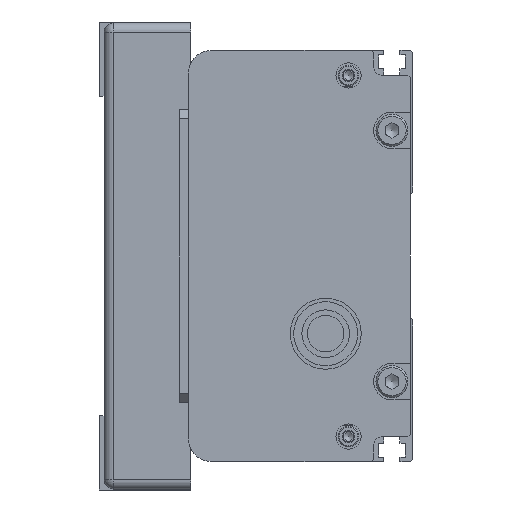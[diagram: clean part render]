
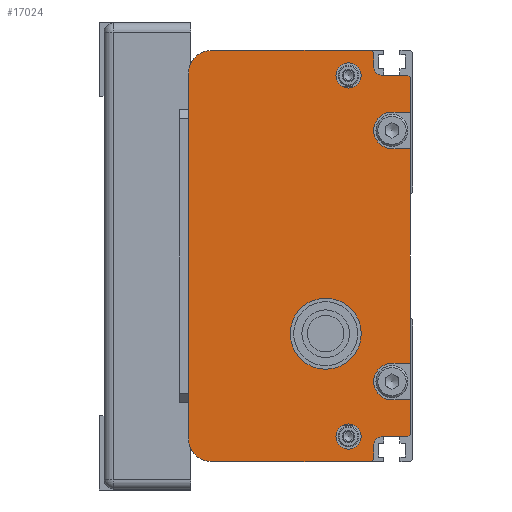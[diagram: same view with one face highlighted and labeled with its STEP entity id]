
A CAD part, left-side view. The second image highlights one B-rep face of the part: STEP entity #17024.
In plain terms, the highlighted planar face has unit normal (-1, 0, 0) as drawn and (0, 0, -1) by its records, which use the part's own axes.
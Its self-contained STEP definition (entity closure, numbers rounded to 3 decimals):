
#1084=FACE_BOUND('',#2504,.T.);
#1085=FACE_BOUND('',#2505,.T.);
#1086=FACE_BOUND('',#2506,.T.);
#1426=FACE_OUTER_BOUND('',#2503,.T.);
#2503=EDGE_LOOP('',(#11835,#11836,#11837,#11838,#11839,#11840,#11841,#11842,
#11843,#11844,#11845,#11846,#11847,#11848,#11849,#11850,#11851,#11852,#11853,
#11854,#11855,#11856,#11857,#11858));
#2504=EDGE_LOOP('',(#11859));
#2505=EDGE_LOOP('',(#11860));
#2506=EDGE_LOOP('',(#11861));
#3801=LINE('',#24681,#5299);
#3827=LINE('',#24748,#5325);
#3829=LINE('',#24753,#5327);
#3830=LINE('',#24755,#5328);
#3831=LINE('',#24758,#5329);
#3832=LINE('',#24760,#5330);
#3833=LINE('',#24762,#5331);
#3834=LINE('',#24766,#5332);
#3835=LINE('',#24768,#5333);
#3836=LINE('',#24770,#5334);
#3837=LINE('',#24774,#5335);
#3838=LINE('',#24776,#5336);
#3839=LINE('',#24778,#5337);
#3840=LINE('',#24780,#5338);
#3841=LINE('',#24784,#5339);
#3842=LINE('',#24786,#5340);
#3843=LINE('',#24787,#5341);
#3844=LINE('',#24788,#5342);
#5299=VECTOR('',#20054,80.);
#5325=VECTOR('',#20106,0.707);
#5327=VECTOR('',#20110,0.707);
#5328=VECTOR('',#20111,3.);
#5329=VECTOR('',#20114,5.5);
#5330=VECTOR('',#20115,7.5);
#5331=VECTOR('',#20116,4.);
#5332=VECTOR('',#20119,4.);
#5333=VECTOR('',#20120,47.);
#5334=VECTOR('',#20121,4.);
#5335=VECTOR('',#20124,4.);
#5336=VECTOR('',#20125,7.5);
#5337=VECTOR('',#20126,0.707);
#5338=VECTOR('',#20127,5.5);
#5339=VECTOR('',#20130,3.);
#5340=VECTOR('',#20131,0.707);
#5341=VECTOR('',#20132,35.);
#5342=VECTOR('',#20133,35.);
#6692=CIRCLE('',#18188,5.);
#6695=CIRCLE('',#18195,5.);
#6697=CIRCLE('',#18201,2.);
#6698=CIRCLE('',#18202,4.);
#6699=CIRCLE('',#18203,4.);
#6700=CIRCLE('',#18204,2.);
#6701=CIRCLE('',#18205,7.769);
#6702=CIRCLE('',#18206,2.75);
#6703=CIRCLE('',#18207,2.75);
#7303=VERTEX_POINT('',#24678);
#7304=VERTEX_POINT('',#24680);
#7305=VERTEX_POINT('',#24684);
#7308=VERTEX_POINT('',#24695);
#7331=VERTEX_POINT('',#24745);
#7332=VERTEX_POINT('',#24747);
#7333=VERTEX_POINT('',#24751);
#7334=VERTEX_POINT('',#24752);
#7335=VERTEX_POINT('',#24754);
#7336=VERTEX_POINT('',#24756);
#7337=VERTEX_POINT('',#24759);
#7338=VERTEX_POINT('',#24761);
#7339=VERTEX_POINT('',#24763);
#7340=VERTEX_POINT('',#24765);
#7341=VERTEX_POINT('',#24767);
#7342=VERTEX_POINT('',#24769);
#7343=VERTEX_POINT('',#24771);
#7344=VERTEX_POINT('',#24773);
#7345=VERTEX_POINT('',#24775);
#7346=VERTEX_POINT('',#24777);
#7347=VERTEX_POINT('',#24779);
#7348=VERTEX_POINT('',#24781);
#7349=VERTEX_POINT('',#24783);
#7350=VERTEX_POINT('',#24785);
#7351=VERTEX_POINT('',#24789);
#7352=VERTEX_POINT('',#24791);
#7353=VERTEX_POINT('',#24793);
#9093=EDGE_CURVE('',#7303,#7304,#3801,.T.);
#9095=EDGE_CURVE('',#7304,#7305,#6692,.T.);
#9100=EDGE_CURVE('',#7308,#7303,#6695,.T.);
#9124=EDGE_CURVE('',#7331,#7332,#3827,.T.);
#9126=EDGE_CURVE('',#7333,#7334,#3829,.T.);
#9127=EDGE_CURVE('',#7333,#7335,#3830,.T.);
#9128=EDGE_CURVE('',#7335,#7336,#6697,.T.);
#9129=EDGE_CURVE('',#7336,#7332,#3831,.T.);
#9130=EDGE_CURVE('',#7337,#7331,#3832,.T.);
#9131=EDGE_CURVE('',#7337,#7338,#3833,.T.);
#9132=EDGE_CURVE('',#7338,#7339,#6698,.T.);
#9133=EDGE_CURVE('',#7339,#7340,#3834,.T.);
#9134=EDGE_CURVE('',#7341,#7340,#3835,.T.);
#9135=EDGE_CURVE('',#7341,#7342,#3836,.T.);
#9136=EDGE_CURVE('',#7342,#7343,#6699,.T.);
#9137=EDGE_CURVE('',#7343,#7344,#3837,.T.);
#9138=EDGE_CURVE('',#7345,#7344,#3838,.T.);
#9139=EDGE_CURVE('',#7346,#7345,#3839,.T.);
#9140=EDGE_CURVE('',#7346,#7347,#3840,.T.);
#9141=EDGE_CURVE('',#7347,#7348,#6700,.T.);
#9142=EDGE_CURVE('',#7348,#7349,#3841,.T.);
#9143=EDGE_CURVE('',#7350,#7349,#3842,.T.);
#9144=EDGE_CURVE('',#7305,#7350,#3843,.T.);
#9145=EDGE_CURVE('',#7334,#7308,#3844,.T.);
#9146=EDGE_CURVE('',#7351,#7351,#6701,.T.);
#9147=EDGE_CURVE('',#7352,#7352,#6702,.T.);
#9148=EDGE_CURVE('',#7353,#7353,#6703,.T.);
#11835=ORIENTED_EDGE('',*,*,#9126,.F.);
#11836=ORIENTED_EDGE('',*,*,#9127,.T.);
#11837=ORIENTED_EDGE('',*,*,#9128,.T.);
#11838=ORIENTED_EDGE('',*,*,#9129,.T.);
#11839=ORIENTED_EDGE('',*,*,#9124,.F.);
#11840=ORIENTED_EDGE('',*,*,#9130,.F.);
#11841=ORIENTED_EDGE('',*,*,#9131,.T.);
#11842=ORIENTED_EDGE('',*,*,#9132,.T.);
#11843=ORIENTED_EDGE('',*,*,#9133,.T.);
#11844=ORIENTED_EDGE('',*,*,#9134,.F.);
#11845=ORIENTED_EDGE('',*,*,#9135,.T.);
#11846=ORIENTED_EDGE('',*,*,#9136,.T.);
#11847=ORIENTED_EDGE('',*,*,#9137,.T.);
#11848=ORIENTED_EDGE('',*,*,#9138,.F.);
#11849=ORIENTED_EDGE('',*,*,#9139,.F.);
#11850=ORIENTED_EDGE('',*,*,#9140,.T.);
#11851=ORIENTED_EDGE('',*,*,#9141,.T.);
#11852=ORIENTED_EDGE('',*,*,#9142,.T.);
#11853=ORIENTED_EDGE('',*,*,#9143,.F.);
#11854=ORIENTED_EDGE('',*,*,#9144,.F.);
#11855=ORIENTED_EDGE('',*,*,#9095,.F.);
#11856=ORIENTED_EDGE('',*,*,#9093,.F.);
#11857=ORIENTED_EDGE('',*,*,#9100,.F.);
#11858=ORIENTED_EDGE('',*,*,#9145,.F.);
#11859=ORIENTED_EDGE('',*,*,#9146,.T.);
#11860=ORIENTED_EDGE('',*,*,#9147,.T.);
#11861=ORIENTED_EDGE('',*,*,#9148,.T.);
#16410=PLANE('',#18200);
#17024=ADVANCED_FACE('',(#1426,#1084,#1085,#1086),#16410,.F.);
#18188=AXIS2_PLACEMENT_3D('',#24685,#20058,#20059);
#18195=AXIS2_PLACEMENT_3D('',#24697,#20074,#20075);
#18200=AXIS2_PLACEMENT_3D('',#24750,#20108,#20109);
#18201=AXIS2_PLACEMENT_3D('',#24757,#20112,#20113);
#18202=AXIS2_PLACEMENT_3D('',#24764,#20117,#20118);
#18203=AXIS2_PLACEMENT_3D('',#24772,#20122,#20123);
#18204=AXIS2_PLACEMENT_3D('',#24782,#20128,#20129);
#18205=AXIS2_PLACEMENT_3D('',#24790,#20134,#20135);
#18206=AXIS2_PLACEMENT_3D('',#24792,#20136,#20137);
#18207=AXIS2_PLACEMENT_3D('',#24794,#20138,#20139);
#20054=DIRECTION('',(-1.,0.,0.));
#20058=DIRECTION('center_axis',(0.,0.,1.));
#20059=DIRECTION('ref_axis',(0.,1.,0.));
#20074=DIRECTION('center_axis',(0.,0.,1.));
#20075=DIRECTION('ref_axis',(1.,0.,0.));
#20106=DIRECTION('',(0.707,0.707,0.));
#20108=DIRECTION('center_axis',(0.,0.,1.));
#20109=DIRECTION('ref_axis',(1.,0.,0.));
#20110=DIRECTION('',(0.707,0.707,0.));
#20111=DIRECTION('',(-1.,0.,0.));
#20112=DIRECTION('center_axis',(0.,0.,1.));
#20113=DIRECTION('ref_axis',(0.,1.,0.));
#20114=DIRECTION('',(0.,-1.,0.));
#20115=DIRECTION('',(1.,0.,0.));
#20116=DIRECTION('',(0.,1.,0.));
#20117=DIRECTION('center_axis',(0.,0.,1.));
#20118=DIRECTION('ref_axis',(-1.,0.,0.));
#20119=DIRECTION('',(0.,-1.,0.));
#20120=DIRECTION('',(1.,0.,0.));
#20121=DIRECTION('',(0.,1.,0.));
#20122=DIRECTION('center_axis',(0.,0.,1.));
#20123=DIRECTION('ref_axis',(-1.,0.,0.));
#20124=DIRECTION('',(0.,-1.,0.));
#20125=DIRECTION('',(1.,0.,0.));
#20126=DIRECTION('',(0.707,-0.707,0.));
#20127=DIRECTION('',(0.,1.,0.));
#20128=DIRECTION('center_axis',(0.,0.,1.));
#20129=DIRECTION('ref_axis',(-1.,0.,0.));
#20130=DIRECTION('',(-1.,0.,0.));
#20131=DIRECTION('',(0.707,-0.707,0.));
#20132=DIRECTION('',(0.,-1.,0.));
#20133=DIRECTION('',(0.,1.,0.));
#20134=DIRECTION('center_axis',(0.,0.,1.));
#20135=DIRECTION('ref_axis',(0.766,-0.643,0.));
#20136=DIRECTION('center_axis',(0.,0.,1.));
#20137=DIRECTION('ref_axis',(-1.,0.,0.));
#20138=DIRECTION('center_axis',(0.,0.,1.));
#20139=DIRECTION('ref_axis',(-1.,0.,0.));
#24678=CARTESIAN_POINT('',(37.988,51.846,-747.249));
#24680=CARTESIAN_POINT('',(-42.012,51.846,-747.249));
#24681=CARTESIAN_POINT('',(37.988,51.846,-747.249));
#24684=CARTESIAN_POINT('',(-47.012,46.846,-747.249));
#24685=CARTESIAN_POINT('Origin',(-42.012,46.846,-747.249));
#24695=CARTESIAN_POINT('',(42.988,46.846,-747.249));
#24697=CARTESIAN_POINT('Origin',(37.988,46.846,-747.249));
#24745=CARTESIAN_POINT('',(36.988,3.346,-747.249));
#24747=CARTESIAN_POINT('',(37.488,3.846,-747.249));
#24748=CARTESIAN_POINT('',(36.988,3.346,-747.249));
#24750=CARTESIAN_POINT('Origin',(-2.012,27.249,-747.249));
#24751=CARTESIAN_POINT('',(42.488,11.346,-747.249));
#24752=CARTESIAN_POINT('',(42.988,11.846,-747.249));
#24753=CARTESIAN_POINT('',(42.488,11.346,-747.249));
#24754=CARTESIAN_POINT('',(39.488,11.346,-747.249));
#24755=CARTESIAN_POINT('',(42.488,11.346,-747.249));
#24756=CARTESIAN_POINT('',(37.488,9.346,-747.249));
#24757=CARTESIAN_POINT('Origin',(39.488,9.346,-747.249));
#24758=CARTESIAN_POINT('',(37.488,9.346,-747.249));
#24759=CARTESIAN_POINT('',(29.488,3.346,-747.249));
#24760=CARTESIAN_POINT('',(29.488,3.346,-747.249));
#24761=CARTESIAN_POINT('',(29.488,7.346,-747.249));
#24762=CARTESIAN_POINT('',(29.488,3.346,-747.249));
#24763=CARTESIAN_POINT('',(21.488,7.346,-747.249));
#24764=CARTESIAN_POINT('Origin',(25.488,7.346,-747.249));
#24765=CARTESIAN_POINT('',(21.488,3.346,-747.249));
#24766=CARTESIAN_POINT('',(21.488,7.346,-747.249));
#24767=CARTESIAN_POINT('',(-25.512,3.346,-747.249));
#24768=CARTESIAN_POINT('',(-25.512,3.346,-747.249));
#24769=CARTESIAN_POINT('',(-25.512,7.346,-747.249));
#24770=CARTESIAN_POINT('',(-25.512,3.346,-747.249));
#24771=CARTESIAN_POINT('',(-33.512,7.346,-747.249));
#24772=CARTESIAN_POINT('Origin',(-29.512,7.346,-747.249));
#24773=CARTESIAN_POINT('',(-33.512,3.346,-747.249));
#24774=CARTESIAN_POINT('',(-33.512,7.346,-747.249));
#24775=CARTESIAN_POINT('',(-41.012,3.346,-747.249));
#24776=CARTESIAN_POINT('',(-41.012,3.346,-747.249));
#24777=CARTESIAN_POINT('',(-41.512,3.846,-747.249));
#24778=CARTESIAN_POINT('',(-41.512,3.846,-747.249));
#24779=CARTESIAN_POINT('',(-41.512,9.346,-747.249));
#24780=CARTESIAN_POINT('',(-41.512,3.846,-747.249));
#24781=CARTESIAN_POINT('',(-43.512,11.346,-747.249));
#24782=CARTESIAN_POINT('Origin',(-43.512,9.346,-747.249));
#24783=CARTESIAN_POINT('',(-46.512,11.346,-747.249));
#24784=CARTESIAN_POINT('',(-43.512,11.346,-747.249));
#24785=CARTESIAN_POINT('',(-47.012,11.846,-747.249));
#24786=CARTESIAN_POINT('',(-47.012,11.846,-747.249));
#24787=CARTESIAN_POINT('',(-47.012,46.846,-747.249));
#24788=CARTESIAN_POINT('',(42.988,11.846,-747.249));
#24789=CARTESIAN_POINT('',(20.939,16.853,-747.249));
#24790=CARTESIAN_POINT('Origin',(14.988,21.846,-747.249));
#24791=CARTESIAN_POINT('',(34.738,16.846,-747.249));
#24792=CARTESIAN_POINT('Origin',(37.488,16.846,-747.249));
#24793=CARTESIAN_POINT('',(-44.262,16.846,-747.249));
#24794=CARTESIAN_POINT('Origin',(-41.512,16.846,-747.249));
